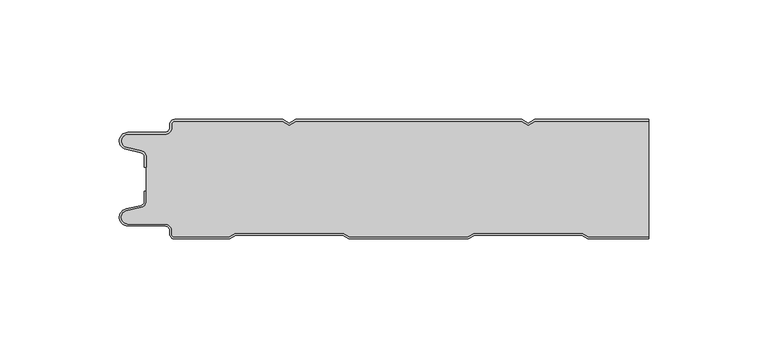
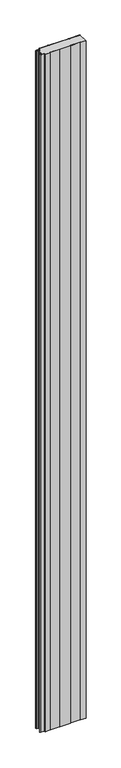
"""IFC4 building model written with IfcOpenShell, lengths in millimetres: plate geometry, PMH_Curtain-PaneL-Standard : ACH_PMH_Stone-wool-Panel_50M."""

from ifc_helpers import new_model, si_unit, point, frame_2d, origin, origin_with_axes, place, context, project, spatial, polyline, circle_curve, trimmed, segment, composite_curve, outline, extrude, source, transform, mapped, element, save


def plate_f3e37640(model_context):
    return source(origin(), model_context, "Body", "SweptSolid", [
        extrude(outline(composite_curve([segment(trimmed(circle_curve(frame_2d((-102.0119739, -15.878557)), 2.0), [point((-100.0119739, -15.878557))], [point((-101.5620718, -13.9298169))], True, "CARTESIAN"), True, "CONTINUOUS"), segment(polyline([(-101.5620718, -13.9298169), (-107.7217978, -12.507732)]), True, "CONTINUOUS"), segment(trimmed(circle_curve(frame_2d((-106.9119739, -9.0)), 3.6), [point((-107.7217978, -12.507732))], [point((-106.9119739, -5.4))], False, "CARTESIAN"), True, "CONTINUOUS"), segment(polyline([(-106.9119739, -5.4), (-91.4119739, -5.4)]), True, "CONTINUOUS"), segment(trimmed(circle_curve(frame_2d((-91.4119739, -3.4)), 2.0), [point((-91.4119739, -5.4))], [point((-89.4119739, -3.4))], True, "CARTESIAN"), True, "CONTINUOUS"), segment(polyline([(-89.4119739, -3.4), (-89.4119739, -2.0)]), True, "CONTINUOUS"), segment(trimmed(circle_curve(frame_2d((-87.4119739, -2.0)), 2.0), [point((-89.4119739, -2.0))], [point((-87.4119739, 0.0))], False, "CARTESIAN"), True, "CONTINUOUS"), segment(polyline([(-87.4119739, 0.0), (-42.1119734, 0.0), (-39.4119739, -1.5588455), (-36.7119745, 0.0), (57.8880266, 0.0), (60.5880261, -1.5588455), (63.2880255, 0.0), (111.0119739, 0.0), (111.0119739, -0.8), (63.5023849, -0.8), (60.5880261, -2.482606), (57.6736672, -0.8), (-36.4976151, -0.8), (-39.4119739, -2.482606), (-42.3263328, -0.8), (-87.4119739, -0.8)]), True, "CONTINUOUS"), segment(trimmed(circle_curve(frame_2d((-87.4119739, -2.0)), 1.2), [point((-87.4119739, -0.8))], [point((-88.6119739, -2.0))], True, "CARTESIAN"), True, "CONTINUOUS"), segment(polyline([(-88.6119739, -2.0), (-88.6119739, -3.4)]), True, "CONTINUOUS"), segment(trimmed(circle_curve(frame_2d((-91.4119739, -3.4)), 2.8), [point((-88.6119739, -3.4))], [point((-91.4119739, -6.2))], False, "CARTESIAN"), True, "CONTINUOUS"), segment(polyline([(-91.4119739, -6.2), (-106.9119739, -6.2)]), True, "CONTINUOUS"), segment(trimmed(circle_curve(frame_2d((-106.9119739, -9.0)), 2.8), [point((-106.9119739, -6.2))], [point((-107.541837, -11.7282362))], True, "CARTESIAN"), True, "CONTINUOUS"), segment(polyline([(-107.541837, -11.7282362), (-101.3821109, -13.150321)]), True, "CONTINUOUS"), segment(trimmed(circle_curve(frame_2d((-102.0119739, -15.878557)), 2.8), [point((-101.3821109, -13.150321))], [point((-99.2119739, -15.878557))], False, "CARTESIAN"), True, "CONTINUOUS"), segment(polyline([(-99.2119739, -15.878557), (-99.2119739, -20.0), (-100.0119739, -20.0), (-100.0119739, -15.878557)]), True, "CONTINUOUS")], self_intersect=False)), origin_with_axes(), (0.0, 0.0, 1.0), 3500.0),
        extrude(outline(composite_curve([segment(polyline([(-99.2119739, -34.121443), (-99.2119739, -15.8785573)]), True, "CONTINUOUS"), segment(trimmed(circle_curve(frame_2d((-102.0119739, -15.8785573)), 2.8), [point((-99.2119739, -15.8785573))], [point((-101.3821109, -13.1503212))], True, "CARTESIAN"), True, "CONTINUOUS"), segment(polyline([(-101.3821109, -13.1503212), (-107.541837, -11.7282362)]), True, "CONTINUOUS"), segment(trimmed(circle_curve(frame_2d((-106.911974, -9.0)), 2.8), [point((-107.541837, -11.7282362))], [point((-106.911974, -6.2))], False, "CARTESIAN"), True, "CONTINUOUS"), segment(polyline([(-106.911974, -6.2), (-91.411974, -6.2)]), True, "CONTINUOUS"), segment(trimmed(circle_curve(frame_2d((-91.411974, -3.4)), 2.8), [point((-91.411974, -6.2))], [point((-88.611974, -3.4))], True, "CARTESIAN"), True, "CONTINUOUS"), segment(polyline([(-88.611974, -3.4), (-88.611974, -2.0)]), True, "CONTINUOUS"), segment(trimmed(circle_curve(frame_2d((-87.411974, -2.0)), 1.2), [point((-88.611974, -2.0))], [point((-87.411974, -0.8))], False, "CARTESIAN"), True, "CONTINUOUS"), segment(polyline([(-87.411974, -0.8), (-42.3263329, -0.8), (-39.411974, -2.482606), (-36.4976152, -0.8), (57.6736671, -0.8), (60.588026, -2.482606), (63.5023848, -0.8), (111.0119739, -0.8), (111.0119739, -49.2), (85.7985382, -49.2), (83.2004606, -47.7), (37.9717445, -47.7), (35.3736669, -49.2), (-14.2014618, -49.2), (-16.7995394, -47.7), (-62.0282555, -47.7), (-64.6263331, -49.2), (-87.4119739, -49.2)]), True, "CONTINUOUS"), segment(trimmed(circle_curve(frame_2d((-87.4119739, -48.0)), 1.2), [point((-87.4119739, -49.2))], [point((-88.6119739, -48.0))], False, "CARTESIAN"), True, "CONTINUOUS"), segment(polyline([(-88.6119739, -48.0), (-88.6119739, -46.5999998)]), True, "CONTINUOUS"), segment(trimmed(circle_curve(frame_2d((-91.4119739, -46.5999998)), 2.8), [point((-88.6119739, -46.5999998))], [point((-91.4119739, -43.7999998))], True, "CARTESIAN"), True, "CONTINUOUS"), segment(polyline([(-91.4119739, -43.7999998), (-106.9119739, -43.7999998)]), True, "CONTINUOUS"), segment(trimmed(circle_curve(frame_2d((-106.9119739, -41.0)), 2.7999998), [point((-106.9119739, -43.7999998))], [point((-107.5418369, -38.271764))], False, "CARTESIAN"), True, "CONTINUOUS"), segment(polyline([(-107.5418369, -38.271764), (-101.3821109, -36.8496792)]), True, "CONTINUOUS"), segment(trimmed(circle_curve(frame_2d((-102.0119739, -34.121443)), 2.8), [point((-101.3821109, -36.8496792))], [point((-99.2119739, -34.121443))], True, "CARTESIAN"), True, "CONTINUOUS")], self_intersect=False)), origin_with_axes(), (0.0, 0.0, 1.0), 3500.0),
        extrude(outline(composite_curve([segment(trimmed(circle_curve(frame_2d((-87.4119739, -48.0)), 2.0), [point((-87.4119739, -50.0))], [point((-89.4119739, -48.0))], False, "CARTESIAN"), True, "CONTINUOUS"), segment(polyline([(-89.4119739, -48.0), (-89.4119739, -46.6)]), True, "CONTINUOUS"), segment(trimmed(circle_curve(frame_2d((-91.4119739, -46.6)), 2.0), [point((-89.4119739, -46.6))], [point((-91.4119739, -44.6))], True, "CARTESIAN"), True, "CONTINUOUS"), segment(polyline([(-91.4119739, -44.6), (-106.9119739, -44.6)]), True, "CONTINUOUS"), segment(trimmed(circle_curve(frame_2d((-106.9119739, -41.0)), 3.6), [point((-106.9119739, -44.6))], [point((-107.7217979, -37.4922678))], False, "CARTESIAN"), True, "CONTINUOUS"), segment(polyline([(-107.7217979, -37.4922678), (-101.5620718, -36.070183)]), True, "CONTINUOUS"), segment(trimmed(circle_curve(frame_2d((-102.0119739, -34.121443)), 2.0), [point((-101.5620718, -36.070183))], [point((-100.0119739, -34.121443))], True, "CARTESIAN"), True, "CONTINUOUS"), segment(polyline([(-100.0119739, -34.121443), (-100.0119739, -30.0), (-99.2119739, -30.0), (-99.2119739, -34.121443)]), True, "CONTINUOUS"), segment(trimmed(circle_curve(frame_2d((-102.0119739, -34.121443)), 2.8), [point((-99.2119739, -34.121443))], [point((-101.3821109, -36.8496792))], False, "CARTESIAN"), True, "CONTINUOUS"), segment(polyline([(-101.3821109, -36.8496792), (-107.5418369, -38.271764)]), True, "CONTINUOUS"), segment(trimmed(circle_curve(frame_2d((-106.9119739, -41.0)), 2.8), [point((-107.5418369, -38.271764))], [point((-106.9119739, -43.8))], True, "CARTESIAN"), True, "CONTINUOUS"), segment(polyline([(-106.9119739, -43.8), (-91.4119739, -43.8)]), True, "CONTINUOUS"), segment(trimmed(circle_curve(frame_2d((-91.4119739, -46.6)), 2.8), [point((-91.4119739, -43.8))], [point((-88.6119739, -46.6))], False, "CARTESIAN"), True, "CONTINUOUS"), segment(polyline([(-88.6119739, -46.6), (-88.6119739, -48.0)]), True, "CONTINUOUS"), segment(trimmed(circle_curve(frame_2d((-87.4119739, -48.0)), 1.2), [point((-88.6119739, -48.0))], [point((-87.4119739, -49.2))], True, "CARTESIAN"), True, "CONTINUOUS"), segment(polyline([(-87.4119739, -49.2), (-64.6263331, -49.2), (-62.0282555, -47.7), (-16.7995394, -47.7), (-14.2014618, -49.2), (35.3736669, -49.2), (37.9717445, -47.7), (83.2004606, -47.7), (85.7985382, -49.2), (111.0119739, -49.2), (111.0119739, -50.0), (85.584179, -50.0), (82.9861014, -48.5), (38.1861037, -48.5), (35.5880261, -50.0), (-14.415821, -50.0), (-17.0138986, -48.5), (-61.8138963, -48.5), (-64.4119739, -50.0), (-87.4119739, -50.0)]), True, "CONTINUOUS")], self_intersect=False)), origin_with_axes(), (0.0, 0.0, 1.0), 3500.0),
    ])


if __name__ == "__main__":
    model = new_model("IFC4")
    model_context = context("Model", 3, world=origin())
    ifc_project = project(units=[si_unit("LENGTHUNIT", "METRE", prefix="MILLI")], contexts=[model_context])
    site = spatial("IfcSite", under=ifc_project)
    building = spatial("IfcBuilding", under=site)
    placement = place(None, origin())
    plate_shape = plate_f3e37640(model_context)
    element("IfcPlate", 1, ObjectType="PMH_Curtain-PaneL-Standard : ACH_PMH_Stone-wool-Panel_50M", at=placement, inside=building, context=model_context, shape_type="MappedRepresentation", body=[
        mapped(plate_shape, transform((0.0, 0.0, 0.0), x_axis=(1.0, 0.0, 0.0), y_axis=(0.0, 1.0, 0.0), z_axis=(0.0, 0.0, 1.0))),
    ])
    save(model, "model.ifc")
